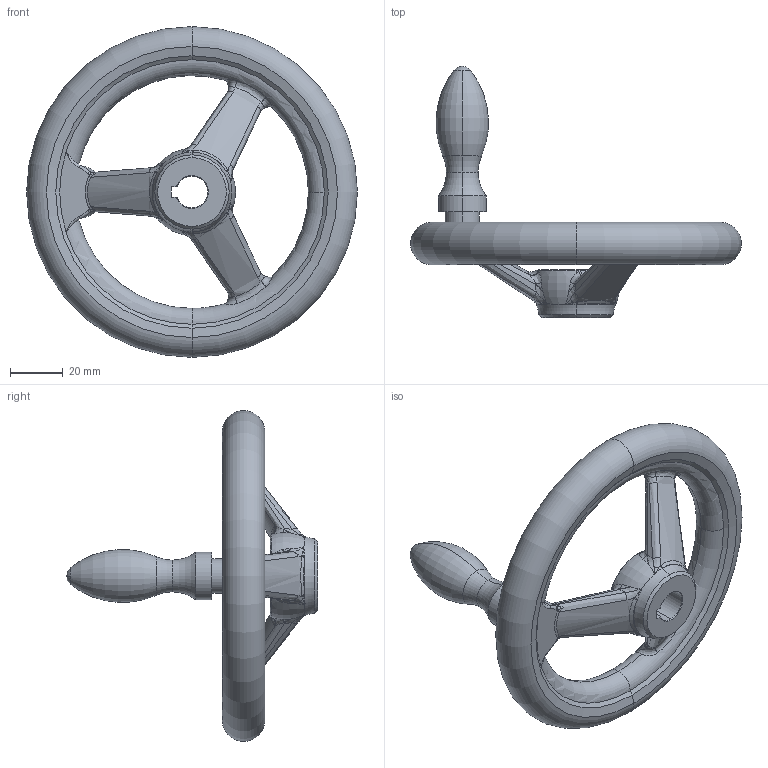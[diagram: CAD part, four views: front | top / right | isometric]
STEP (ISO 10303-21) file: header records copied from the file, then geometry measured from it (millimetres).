
FILE_DESCRIPTION (( 'STEP AP203' ), '1' );
FILE_NAME ('din950_d3_125x12.step', '2015-02-02T09:39:38', ( 'Magnus' ), ( 'Microsoft' ), 'SwSTEP 2.0', 'SolidWorks 2014', '' );
FILE_SCHEMA (( 'CONFIG_CONTROL_DESIGN' ));
Length unit declared in the file: millimetre
Products named in the file (1): din950_d3_125x12
Bounding box: 125 x 95 x 125 mm (x, y, z)
Volume: 109796.2 mm3; surface area: 28252.1 mm2
Topology: 1 solids, 1 shells, 216 faces, 526 edges, 289 vertices
Faces by surface type: bspline 138, torus 34, cone 18, plane 14, cylinder 10, sphere 2
Entity records: 10858 total; most frequent: CARTESIAN_POINT 6799, ORIENTED_EDGE 1016, DIRECTION 604, EDGE_CURVE 508, VERTEX_POINT 289, AXIS2_PLACEMENT_3D 285, B_SPLINE_CURVE_WITH_KNOTS 264, EDGE_LOOP 219
